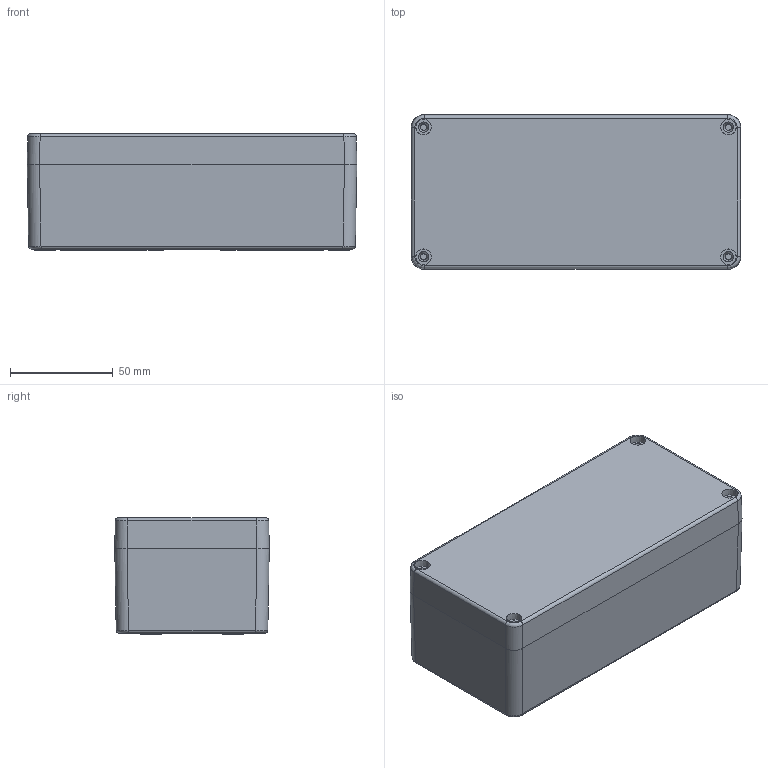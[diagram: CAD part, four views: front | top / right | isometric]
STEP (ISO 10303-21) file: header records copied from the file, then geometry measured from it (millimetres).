
FILE_DESCRIPTION (( 'STEP AP203' ), '1' );
FILE_NAME ('GRP ASSY 1607555.STEP', '2024-08-26T10:16:48', ( '' ), ( '' ), 'SwSTEP 2.0', 'SolidWorks 2018', '' );
FILE_SCHEMA (( 'CONFIG_CONTROL_DESIGN' ));
Length unit declared in the file: millimetre
Products named in the file (6): GRP ASSY 1607555; M4 BRASS INSERT; M4 SS TOP INSERT; M3 BRASS INSERT; GRP BASE 1607555; GRP LID 1607555
Assembly tree (12 placements, depth 2):
  GRP ASSY 1607555
    M3 BRASS INSERT  x4
    M4 BRASS INSERT  x2
    M4 SS TOP INSERT  x4
    GRP BASE 1607555
    GRP LID 1607555
Bounding box: 160 x 75 x 56.5 mm (x, y, z)
Volume: 235070.3 mm3; surface area: 103359.4 mm2
Topology: 12 solids, 12 shells, 1397 faces, 3550 edges, 2242 vertices
Faces by surface type: cylinder 503, plane 446, bspline 210, cone 198, torus 40
Entity records: 38295 total; most frequent: CARTESIAN_POINT 16940, ORIENTED_EDGE 4582, DIRECTION 3840, EDGE_CURVE 2291, VERTEX_POINT 1442, AXIS2_PLACEMENT_3D 1341, LINE 1158, VECTOR 1158
